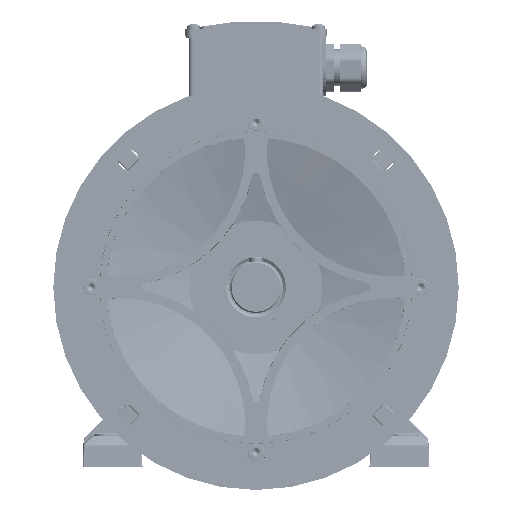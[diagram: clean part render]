
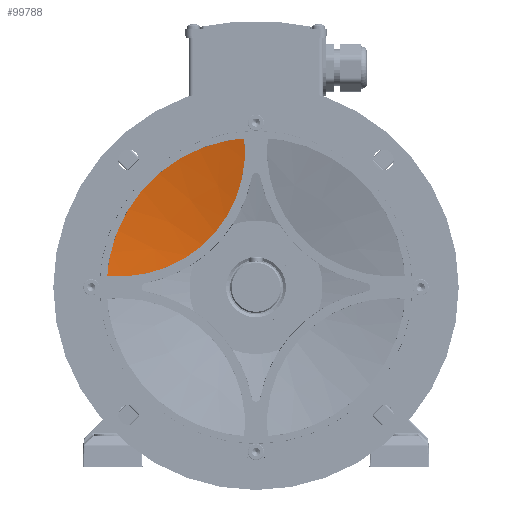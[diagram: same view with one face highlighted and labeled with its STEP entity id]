
A CAD part, left-side view. The second image highlights one B-rep face of the part: STEP entity #99788.
In plain terms, the highlighted conical face has half-angle 77.438 degrees and reference radius 110 mm.
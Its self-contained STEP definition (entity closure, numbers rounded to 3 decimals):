
#1233 = CARTESIAN_POINT ( 'NONE',  ( -8.043, 8.265, 92.775 ) ) ;
#2185 = CARTESIAN_POINT ( 'NONE',  ( 0.065, 21.156, 52.668 ) ) ;
#3119 = CARTESIAN_POINT ( 'NONE',  ( 0.743, 48.142, 23.984 ) ) ;
#4045 = CARTESIAN_POINT ( 'NONE',  ( -8.775, 96.083, 8.111 ) ) ;
#23318 = CARTESIAN_POINT ( 'NONE',  ( -6.57, 9.091, 86.054 ) ) ;
#24242 = CARTESIAN_POINT ( 'NONE',  ( 0.727, 23.899, 48.264 ) ) ;
#25190 = CARTESIAN_POINT ( 'NONE',  ( -0.632, 56.941, 18.676 ) ) ;
#26138 = CARTESIAN_POINT ( 'NONE',  ( -10.283, 102.879, 8.026 ) ) ;
#27674 = AXIS2_PLACEMENT_3D ( 'NONE', #83367, #236828, #105419 ) ;
#45403 = CARTESIAN_POINT ( 'NONE',  ( -5.479, 10.007, 81.02 ) ) ;
#46347 = CARTESIAN_POINT ( 'NONE',  ( 1.557, 30.15, 40.094 ) ) ;
#47298 = CARTESIAN_POINT ( 'NONE',  ( -1.785, 63.135, 15.739 ) ) ;
#48224 = CARTESIAN_POINT ( 'NONE',  ( -11.8, 109.667, 8.553 ) ) ;
#59397 = ORIENTED_EDGE ( 'NONE', *, *, #153810, .F. ) ;
#67463 = CARTESIAN_POINT ( 'NONE',  ( -3.728, 12.094, 72.796 ) ) ;
#68389 = CARTESIAN_POINT ( 'NONE',  ( 1.691, 36.076, 33.874 ) ) ;
#69307 = CARTESIAN_POINT ( 'NONE',  ( -2.729, 67.908, 13.808 ) ) ;
#83367 = CARTESIAN_POINT ( 'NONE',  ( -11.8, 0., 0. ) ) ;
#88543 = CARTESIAN_POINT ( 'NONE',  ( -11.8, 8.553, 109.667 ) ) ;
#89483 = CARTESIAN_POINT ( 'NONE',  ( -1.805, 15.621, 63.287 ) ) ;
#90420 = CARTESIAN_POINT ( 'NONE',  ( 1.573, 39.265, 30.949 ) ) ;
#91367 = CARTESIAN_POINT ( 'NONE',  ( -4.4, 75.987, 11.17 ) ) ;
#93459 = FACE_OUTER_BOUND ( 'NONE', #197682, .T. ) ;
#99788 = ADVANCED_FACE ( 'NONE', ( #93459 ), #145008, .F. ) ;
#101723 = CIRCLE ( 'NONE', #27674, 110. ) ;
#105419 = DIRECTION ( 'NONE',  ( 0., 0., 1. ) ) ;
#111564 = CARTESIAN_POINT ( 'NONE',  ( -0.681, 18.612, 57.163 ) ) ;
#112479 = CARTESIAN_POINT ( 'NONE',  ( 1.445, 41.25, 29.253 ) ) ;
#113401 = CARTESIAN_POINT ( 'NONE',  ( -6.538, 85.913, 9.065 ) ) ;
#132655 = CARTESIAN_POINT ( 'NONE',  ( -8.787, 8.062, 96.143 ) ) ;
#133588 = CARTESIAN_POINT ( 'NONE',  ( -0.174, 20.28, 54.158 ) ) ;
#134506 = CARTESIAN_POINT ( 'NONE',  ( 1.093, 45.328, 25.979 ) ) ;
#135469 = CARTESIAN_POINT ( 'NONE',  ( -8.024, 92.683, 8.319 ) ) ;
#137935 = VERTEX_POINT ( 'NONE', #221332 ) ;
#141175 = VERTEX_POINT ( 'NONE', #256964 ) ;
#141886 = ORIENTED_EDGE ( 'NONE', *, *, #249337, .T. ) ;
#145008 = CONICAL_SURFACE ( 'NONE', #254509, 110., 1.352 ) ;
#153759 = CARTESIAN_POINT ( 'NONE',  ( -11.041, 8.195, 106.277 ) ) ;
#153810 = EDGE_CURVE ( 'NONE', #141175, #137935, #193711, .T. ) ;
#154671 = CARTESIAN_POINT ( 'NONE',  ( -6.937, 8.85, 87.733 ) ) ;
#155644 = CARTESIAN_POINT ( 'NONE',  ( 0.18, 21.606, 51.926 ) ) ;
#156595 = CARTESIAN_POINT ( 'NONE',  ( -0.12, 53.948, 20.332 ) ) ;
#157525 = CARTESIAN_POINT ( 'NONE',  ( -9.151, 97.783, 8.055 ) ) ;
#171671 = DIRECTION ( 'NONE',  ( -1., 0., 0. ) ) ;
#176727 = CARTESIAN_POINT ( 'NONE',  ( -5.841, 9.67, 82.699 ) ) ;
#177669 = CARTESIAN_POINT ( 'NONE',  ( 1.077, 25.884, 45.46 ) ) ;
#178596 = CARTESIAN_POINT ( 'NONE',  ( -1.486, 61.568, 16.442 ) ) ;
#179525 = CARTESIAN_POINT ( 'NONE',  ( -11.04, 106.274, 8.194 ) ) ;
#193711 = B_SPLINE_CURVE_WITH_KNOTS ( 'NONE', 3,
 ( #88543, #153759, #264102, #132655, #1233, #154671, #23318, #176727, #45403, #198772, #67463, #220897, #89483, #242994, #111564, #265037, #133588, #2185, #155644, #24242, #177669, #46347, #199721, #68389, #221850, #90420, #243930, #112479, #265980, #134506, #3119, #156595, #25190, #178596, #47298, #200675, #69307, #222781, #91367, #244862, #113401, #266924, #135469, #4045, #157525, #26138, #179525, #48224 ),
 .UNSPECIFIED., .F., .F.,
 ( 4, 2, 2, 2, 2, 2, 2, 2, 2, 2, 2, 2, 2, 2, 2, 2, 2, 2, 2, 2, 2, 2, 2, 4 ),
 ( 0., 0.01, 0.021, 0.026, 0.031, 0.041, 0.052, 0.057, 0.06, 0.062, 0.073, 0.083, 0.088, 0.091, 0.093, 0.104, 0.114, 0.119, 0.124, 0.135, 0.145, 0.15, 0.155, 0.166 ),
 .UNSPECIFIED. ) ;
#197682 = EDGE_LOOP ( 'NONE', ( #141886, #59397 ) ) ;
#198772 = CARTESIAN_POINT ( 'NONE',  ( -4.413, 11.153, 76.048 ) ) ;
#199721 = CARTESIAN_POINT ( 'NONE',  ( 1.685, 32.43, 37.532 ) ) ;
#200675 = CARTESIAN_POINT ( 'NONE',  ( -2.408, 66.311, 14.42 ) ) ;
#220897 = CARTESIAN_POINT ( 'NONE',  ( -2.424, 14.329, 66.416 ) ) ;
#221332 = CARTESIAN_POINT ( 'NONE',  ( -11.8, 109.667, 8.553 ) ) ;
#221850 = CARTESIAN_POINT ( 'NONE',  ( 1.662, 37.328, 32.685 ) ) ;
#222781 = CARTESIAN_POINT ( 'NONE',  ( -3.714, 72.732, 12.113 ) ) ;
#236828 = DIRECTION ( 'NONE',  ( -1., 0., 0. ) ) ;
#242994 = CARTESIAN_POINT ( 'NONE',  ( -0.953, 17.831, 58.683 ) ) ;
#243930 = CARTESIAN_POINT ( 'NONE',  ( 1.535, 39.92, 30.379 ) ) ;
#244862 = CARTESIAN_POINT ( 'NONE',  ( -5.812, 82.577, 9.646 ) ) ;
#249337 = EDGE_CURVE ( 'NONE', #141175, #137935, #101723, .T. ) ;
#254509 = AXIS2_PLACEMENT_3D ( 'NONE', #259041, #171671, #281234 ) ;
#256964 = CARTESIAN_POINT ( 'NONE',  ( -11.8, 8.553, 109.667 ) ) ;
#259041 = CARTESIAN_POINT ( 'NONE',  ( -11.8, 0., 0. ) ) ;
#264102 = CARTESIAN_POINT ( 'NONE',  ( -10.286, 8.027, 102.894 ) ) ;
#265037 = CARTESIAN_POINT ( 'NONE',  ( -0.298, 19.855, 54.906 ) ) ;
#265980 = CARTESIAN_POINT ( 'NONE',  ( 1.392, 41.925, 28.697 ) ) ;
#266924 = CARTESIAN_POINT ( 'NONE',  ( -7.649, 90.98, 8.471 ) ) ;
#281234 = DIRECTION ( 'NONE',  ( 0., 0., 1. ) ) ;
